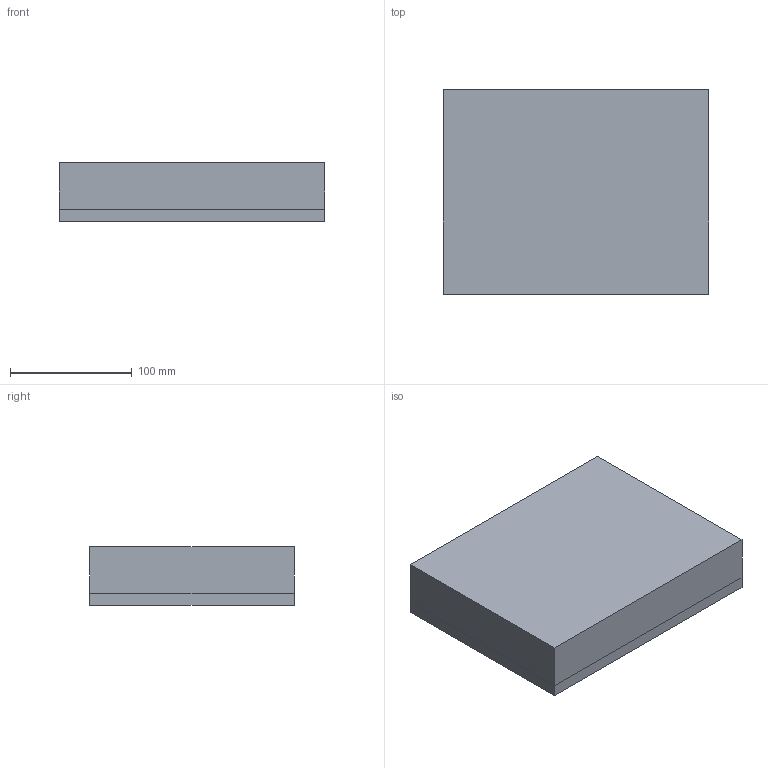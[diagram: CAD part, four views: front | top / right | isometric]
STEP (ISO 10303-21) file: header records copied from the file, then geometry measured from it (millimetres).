
FILE_DESCRIPTION(('CATIA V5 STEP Exchange'),'2;1');
FILE_NAME('C:\_Andres\UNIVERSIDAD\IQS\ASIGNATURAS\DAO\Controles\1920\c2\c2-Rodriguez_Lenguas_Noel.stp','2020-02-10T15:38:32+00:00',('none'),('none'),'CATIA Version 5 Release 19 SP 3 (IN-10)','CATIA V5 STEP AP203','none');
FILE_SCHEMA(('CONFIG_CONTROL_DESIGN'));
Length unit declared in the file: millimetre
Products named in the file (1): c2-Rodriguez_Lenguas_Noel
Bounding box: 218 x 168 x 48 mm (x, y, z)
Surface area: 278328.9 mm2
Topology: 3 solids, 3 shells, 103 faces, 232 edges, 128 vertices
Faces by surface type: cylinder 40, plane 27, bspline 24, sphere 12
Entity records: 3348 total; most frequent: CARTESIAN_POINT 1636, ORIENTED_EDGE 440, DIRECTION 224, EDGE_CURVE 164, EDGE_LOOP 110, ADVANCED_FACE 103, FACE_OUTER_BOUND 103, AXIS2_PLACEMENT_3D 96
